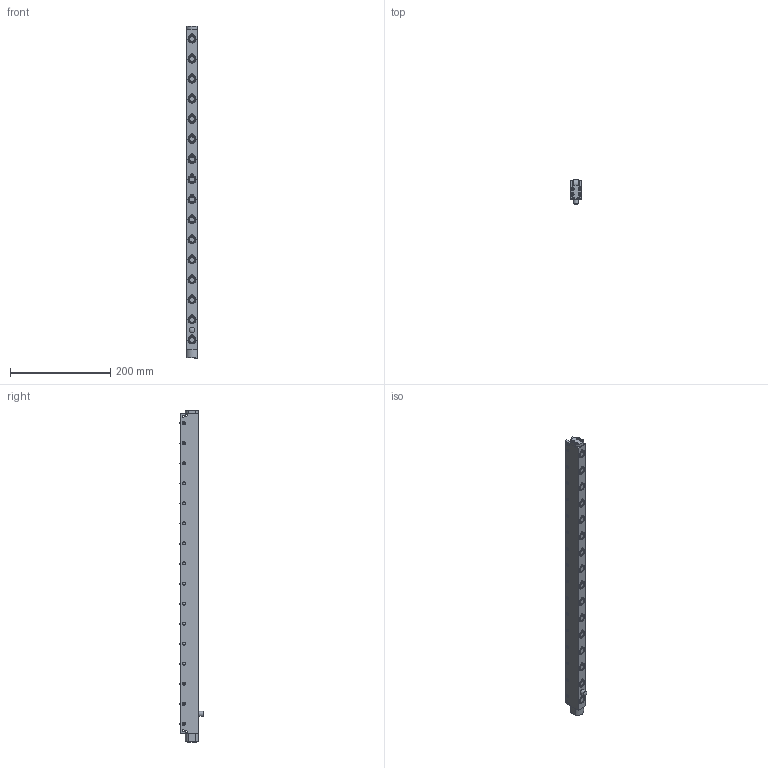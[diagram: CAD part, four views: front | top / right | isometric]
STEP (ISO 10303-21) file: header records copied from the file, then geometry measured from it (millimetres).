
FILE_DESCRIPTION(/* description */ (''),/* implementation_level */ '2;1');
FILE_NAME(/* name */ 'S:\EASCN Vault\Designs\Standard Part\DIE LIFTERS\EHR\EHR- 3D step\EHR22 - 3D step complete serie\EHR22-16.stp',/* time_stamp */ '2019-07-30T16:22:00+08:00',/* author */ ('yue.yang'),/* organization */ (''),/* preprocessor_version */ 'ST-DEVELOPER v17',/* originating_system */ 'Autodesk Inventor 2019',/* authorisation */ '');
FILE_SCHEMA (('AUTOMOTIVE_DESIGN { 1 0 10303 214 3 1 1 }'));
Length unit declared in the file: millimetre
Products named in the file (1): EHR22-16_Shrinkwrap_1
Bounding box: 21.8 x 48.05 x 662 mm (x, y, z)
Volume: 402520.9 mm3; surface area: 157675.2 mm2
Topology: 1 solids, 1 shells, 1041 faces, 2951 edges, 2051 vertices
Faces by surface type: cylinder 346, plane 298, cone 188, torus 176, sphere 33
Full cylindrical faces by diameter (mm): 3 x9, 3.2 x8, 4 x8, 5 x64, 6 x25, 8.566 x1, 10 x3, 11 x16, 12.5 x32, 13.4 x16, 13.8 x16, 15.95 x32, 16 x48
Entity records: 38171 total; most frequent: CARTESIAN_POINT 8684, DIRECTION 6544, ORIENTED_EDGE 5854, EDGE_CURVE 2927, AXIS2_PLACEMENT_3D 2891, VERTEX_POINT 2051, CIRCLE 1849, EDGE_LOOP 1252
